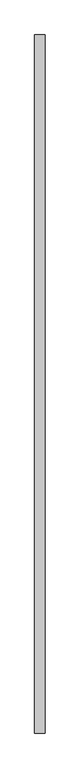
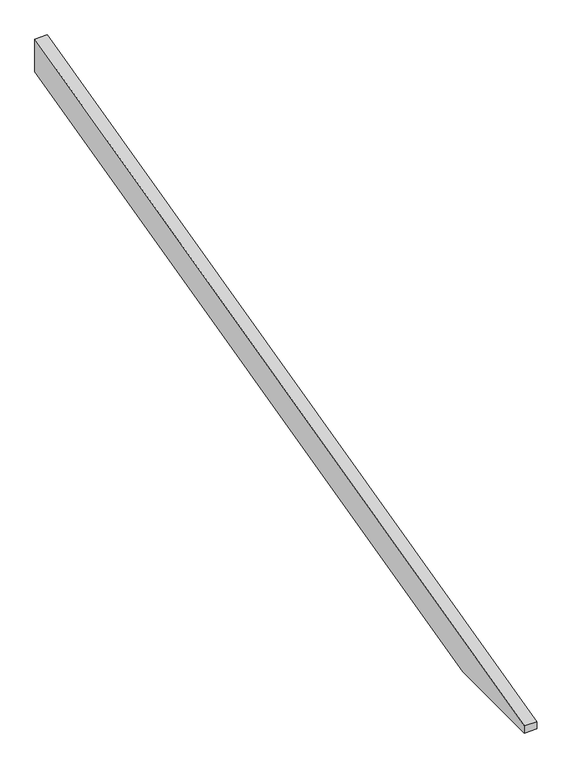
"""IFC4 building model written with IfcOpenShell, lengths in millimetres: proxy geometry, Modelos genéricos 53 : Modelos genéricos 12."""

from ifc_helpers import new_model, si_unit, frame, origin, place, context, project, spatial, polyline, outline, extrude, source, transform, mapped, element, save


def generic_models_fcc09fc7(model_context):
    return source(origin(), model_context, "Body", "SweptSolid", [
        extrude(outline(polyline([(-2181.3761835, 3197.4798401), (1878.6238165, 4209.7515316), (1878.6238165, 4044.8533509), (-1670.3291324, 3160.0), (-2181.3761835, 3160.0), (-2181.3761835, 3197.4798401)])), frame((-5376.5527533, 0.0, 0.0), z_axis=(1.0, 0.0, 0.0), x_axis=(0.0, 1.0, 0.0)), (0.0, 0.0, 1.0), 60.0),
    ])


if __name__ == "__main__":
    model = new_model("IFC4")
    model_context = context("Model", 3, world=origin())
    ifc_project = project(units=[si_unit("LENGTHUNIT", "METRE", prefix="MILLI")], contexts=[model_context])
    site = spatial("IfcSite", under=ifc_project)
    building = spatial("IfcBuilding", under=site)
    placement = place(None, origin())
    generic_models_shape = generic_models_fcc09fc7(model_context)
    element("IfcBuildingElementProxy", 1, Name="Modelos genéricos 53 : Modelos genéricos 12", ObjectType="Modelos genéricos 53 : Modelos genéricos 12", at=placement, inside=building, context=model_context, shape_type="MappedRepresentation", body=[
        mapped(generic_models_shape, transform((0.0, 0.0, 0.0), x_axis=(1.0, 0.0, 0.0), y_axis=(0.0, 1.0, 0.0), z_axis=(0.0, 0.0, 1.0))),
    ])
    save(model, "model.ifc")
